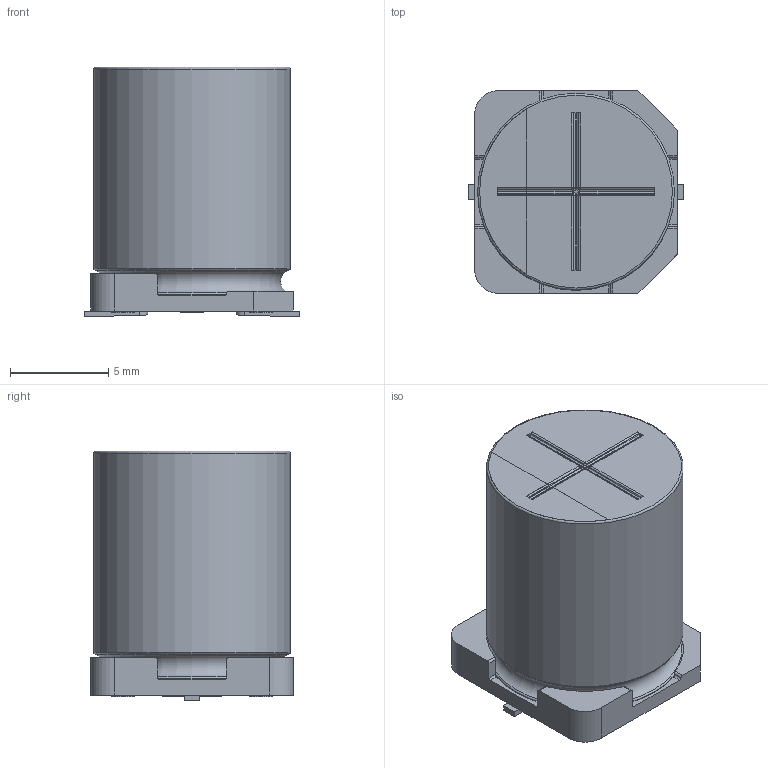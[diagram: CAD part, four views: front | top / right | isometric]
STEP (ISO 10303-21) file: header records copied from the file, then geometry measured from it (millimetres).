
FILE_DESCRIPTION(/* description */ (''),/* implementation_level */ '2;1');
FILE_NAME(/* name */ '10x12.7_Chip.stp',/* time_stamp */ '2017-09-04T19:38:34+09:00',/* author */ (''),/* organization */ (''),/* preprocessor_version */ 'ST-DEVELOPER v16',/* originating_system */ 'SIEMENS PLM Software NX 11.0',/* authorisation */ '');
FILE_SCHEMA (('AUTOMOTIVE_DESIGN { 1 0 10303 214 3 1 1 1 }'));
Length unit declared in the file: millimetre
Products named in the file (1): 10x12.7_Chip_0
Bounding box: 10.9 x 10.3 x 12.7 mm (x, y, z)
Volume: 994 mm3; surface area: 840.4 mm2
Topology: 5 solids, 5 shells, 134 faces, 336 edges, 214 vertices
Faces by surface type: plane 61, cylinder 61, torus 4, sphere 4, bspline 4
Full cylindrical faces by diameter (mm): 1.2 x4, 10 x2
Entity records: 4252 total; most frequent: CARTESIAN_POINT 925, DIRECTION 678, ORIENTED_EDGE 638, EDGE_CURVE 319, AXIS2_PLACEMENT_3D 244, VERTEX_POINT 211, LINE 190, VECTOR 190
